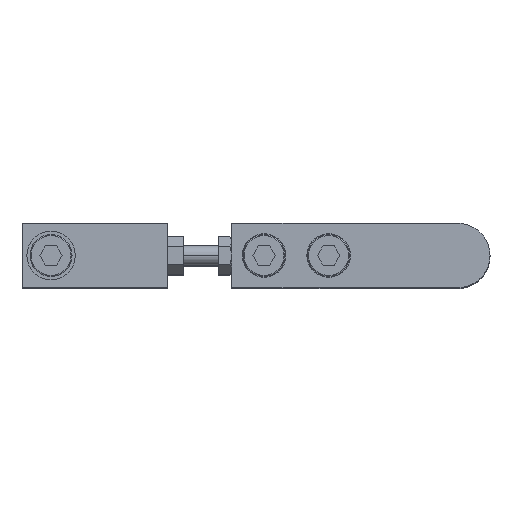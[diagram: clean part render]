
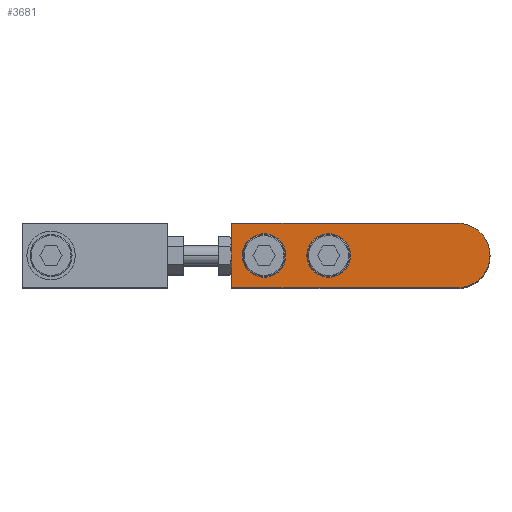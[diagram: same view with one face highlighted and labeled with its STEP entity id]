
A CAD part, top view. The second image highlights one B-rep face of the part: STEP entity #3681.
In plain terms, the highlighted planar face has unit normal (0, 0, 1) as drawn and (0, 0, -1) by its records, which use the part's own axes.
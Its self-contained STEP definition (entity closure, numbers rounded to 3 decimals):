
#200 = DIRECTION ( 'NONE',  ( 0., 0., -1. ) ) ;
#244 = DIRECTION ( 'NONE',  ( 0., 1., 0. ) ) ;
#448 = VERTEX_POINT ( 'NONE', #7235 ) ;
#520 = EDGE_LOOP ( 'NONE', ( #857, #4360 ) ) ;
#737 = FACE_BOUND ( 'NONE', #520, .T. ) ;
#843 = AXIS2_PLACEMENT_3D ( 'NONE', #1478, #2040, #3824 ) ;
#857 = ORIENTED_EDGE ( 'NONE', *, *, #974, .F. ) ;
#940 = EDGE_CURVE ( 'NONE', #1195, #448, #989, .T. ) ;
#970 = DIRECTION ( 'NONE',  ( 0., 0., -1. ) ) ;
#974 = EDGE_CURVE ( 'NONE', #5319, #1480, #1796, .T. ) ;
#989 = CIRCLE ( 'NONE', #3792, 6.75 ) ;
#1103 = EDGE_CURVE ( 'NONE', #448, #1195, #1872, .T. ) ;
#1195 = VERTEX_POINT ( 'NONE', #6831 ) ;
#1291 = EDGE_CURVE ( 'NONE', #6007, #4445, #3691, .T. ) ;
#1296 = ORIENTED_EDGE ( 'NONE', *, *, #5832, .F. ) ;
#1297 = AXIS2_PLACEMENT_3D ( 'NONE', #3903, #4997, #3846 ) ;
#1478 = CARTESIAN_POINT ( 'NONE',  ( 60., 0., -5. ) ) ;
#1480 = VERTEX_POINT ( 'NONE', #5595 ) ;
#1611 = EDGE_LOOP ( 'NONE', ( #4314, #1296, #5411, #3629, #6794 ) ) ;
#1631 = VERTEX_POINT ( 'NONE', #5703 ) ;
#1657 = PLANE ( 'NONE',  #5282 ) ;
#1674 = VERTEX_POINT ( 'NONE', #2855 ) ;
#1796 = CIRCLE ( 'NONE', #1297, 6.75 ) ;
#1806 = DIRECTION ( 'NONE',  ( 0., 0., 1. ) ) ;
#1872 = CIRCLE ( 'NONE', #843, 6.75 ) ;
#1937 = CARTESIAN_POINT ( 'NONE',  ( 0., 0., -5. ) ) ;
#1999 = FACE_OUTER_BOUND ( 'NONE', #1611, .T. ) ;
#2040 = DIRECTION ( 'NONE',  ( 0., 0., -1. ) ) ;
#2375 = DIRECTION ( 'NONE',  ( 1., 0., 0. ) ) ;
#2705 = EDGE_CURVE ( 'NONE', #1631, #1674, #4850, .T. ) ;
#2855 = CARTESIAN_POINT ( 'NONE',  ( 70., -10., -5. ) ) ;
#2862 = EDGE_CURVE ( 'NONE', #1480, #5319, #6887, .T. ) ;
#3109 = CARTESIAN_POINT ( 'NONE',  ( 60., 0., -5. ) ) ;
#3126 = CARTESIAN_POINT ( 'NONE',  ( 70., 10., -5. ) ) ;
#3313 = VECTOR ( 'NONE', #4987, 1000. ) ;
#3359 = EDGE_LOOP ( 'NONE', ( #4114, #5891 ) ) ;
#3574 = CARTESIAN_POINT ( 'NONE',  ( 70., 10., -5. ) ) ;
#3629 = ORIENTED_EDGE ( 'NONE', *, *, #2705, .F. ) ;
#3681 = ADVANCED_FACE ( 'NONE', ( #5193, #737, #1999 ), #1657, .F. ) ;
#3691 = CIRCLE ( 'NONE', #4692, 10. ) ;
#3704 = DIRECTION ( 'NONE',  ( 1., 0., 0. ) ) ;
#3706 = DIRECTION ( 'NONE',  ( -1., 0., 0. ) ) ;
#3731 = DIRECTION ( 'NONE',  ( 0., 0., 1. ) ) ;
#3777 = LINE ( 'NONE', #3126, #4058 ) ;
#3786 = VECTOR ( 'NONE', #6225, 1000. ) ;
#3792 = AXIS2_PLACEMENT_3D ( 'NONE', #3109, #200, #3706 ) ;
#3824 = DIRECTION ( 'NONE',  ( -1., 0., 0. ) ) ;
#3846 = DIRECTION ( 'NONE',  ( -1., 0., 0. ) ) ;
#3903 = CARTESIAN_POINT ( 'NONE',  ( 40., 0., -5. ) ) ;
#4037 = CARTESIAN_POINT ( 'NONE',  ( 0., 10., -5. ) ) ;
#4058 = VECTOR ( 'NONE', #244, 1000. ) ;
#4114 = ORIENTED_EDGE ( 'NONE', *, *, #1103, .F. ) ;
#4314 = ORIENTED_EDGE ( 'NONE', *, *, #1291, .F. ) ;
#4336 = CARTESIAN_POINT ( 'NONE',  ( 0., -10., -5. ) ) ;
#4360 = ORIENTED_EDGE ( 'NONE', *, *, #2862, .F. ) ;
#4445 = VERTEX_POINT ( 'NONE', #5445 ) ;
#4469 = CARTESIAN_POINT ( 'NONE',  ( 0., 0., -5. ) ) ;
#4553 = DIRECTION ( 'NONE',  ( -1., 0., 0. ) ) ;
#4692 = AXIS2_PLACEMENT_3D ( 'NONE', #7043, #6480, #4721 ) ;
#4721 = DIRECTION ( 'NONE',  ( 1., 0., 0. ) ) ;
#4778 = VERTEX_POINT ( 'NONE', #3574 ) ;
#4850 = LINE ( 'NONE', #4336, #3313 ) ;
#4987 = DIRECTION ( 'NONE',  ( 1., 0., 0. ) ) ;
#4997 = DIRECTION ( 'NONE',  ( 0., 0., -1. ) ) ;
#5053 = AXIS2_PLACEMENT_3D ( 'NONE', #1937, #3731, #3704 ) ;
#5193 = FACE_BOUND ( 'NONE', #3359, .T. ) ;
#5245 = CARTESIAN_POINT ( 'NONE',  ( 33.25, 0., -5. ) ) ;
#5282 = AXIS2_PLACEMENT_3D ( 'NONE', #4469, #1806, #2375 ) ;
#5319 = VERTEX_POINT ( 'NONE', #5245 ) ;
#5329 = AXIS2_PLACEMENT_3D ( 'NONE', #7309, #970, #4553 ) ;
#5411 = ORIENTED_EDGE ( 'NONE', *, *, #6186, .F. ) ;
#5445 = CARTESIAN_POINT ( 'NONE',  ( -10., 0., -5. ) ) ;
#5595 = CARTESIAN_POINT ( 'NONE',  ( 46.75, 0., -5. ) ) ;
#5703 = CARTESIAN_POINT ( 'NONE',  ( 0., -10., -5. ) ) ;
#5832 = EDGE_CURVE ( 'NONE', #4778, #6007, #6009, .T. ) ;
#5891 = ORIENTED_EDGE ( 'NONE', *, *, #940, .F. ) ;
#5962 = CARTESIAN_POINT ( 'NONE',  ( 0., 10., -5. ) ) ;
#5977 = EDGE_CURVE ( 'NONE', #4445, #1631, #7437, .T. ) ;
#6007 = VERTEX_POINT ( 'NONE', #5962 ) ;
#6009 = LINE ( 'NONE', #4037, #3786 ) ;
#6186 = EDGE_CURVE ( 'NONE', #1674, #4778, #3777, .T. ) ;
#6225 = DIRECTION ( 'NONE',  ( -1., 0., 0. ) ) ;
#6480 = DIRECTION ( 'NONE',  ( 0., 0., 1. ) ) ;
#6794 = ORIENTED_EDGE ( 'NONE', *, *, #5977, .F. ) ;
#6831 = CARTESIAN_POINT ( 'NONE',  ( 66.75, 0., -5. ) ) ;
#6887 = CIRCLE ( 'NONE', #5329, 6.75 ) ;
#7043 = CARTESIAN_POINT ( 'NONE',  ( 0., 0., -5. ) ) ;
#7235 = CARTESIAN_POINT ( 'NONE',  ( 53.25, 0., -5. ) ) ;
#7309 = CARTESIAN_POINT ( 'NONE',  ( 40., 0., -5. ) ) ;
#7437 = CIRCLE ( 'NONE', #5053, 10. ) ;
